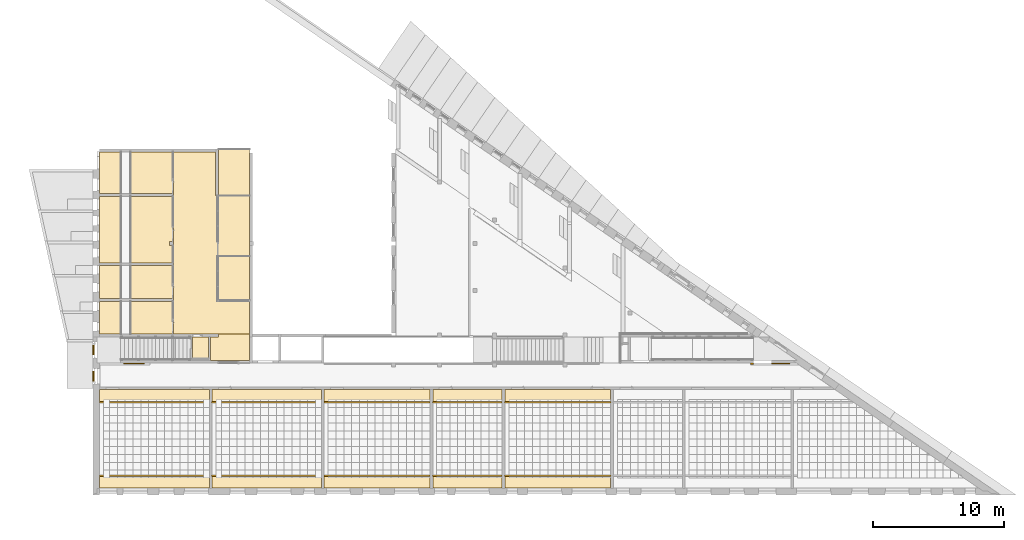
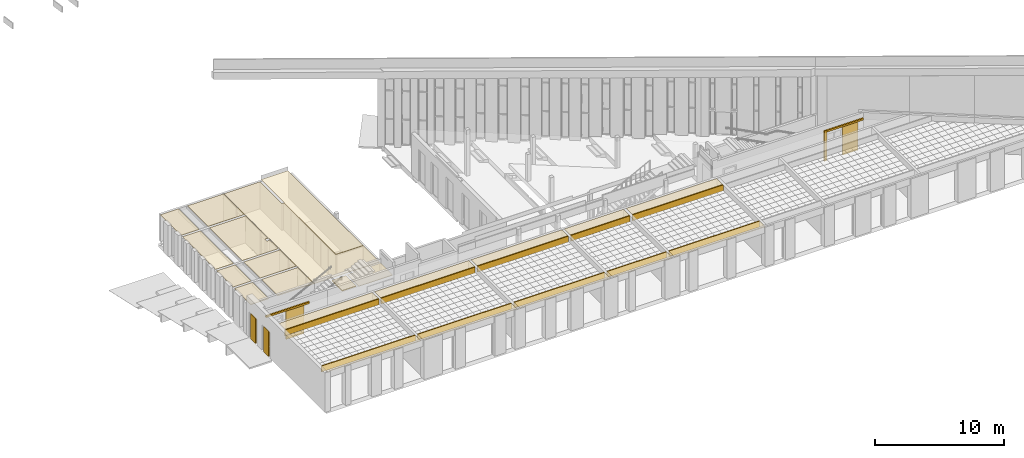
# One storey, part 51 of 79: 34 coverings, 2 doors.
"""IFC2X3 building model written with IfcOpenShell, lengths in millimetres."""

from ifc_helpers import new_model, entity, si_unit, converted_unit, derived_unit, money_unit, direction, frame, origin_with_axes, place, context, subcontext, project, spatial, faceted_brep, source, transform, mapped, material, material_list, type_object, element, save


model = new_model("IFC2X3")

# Units and contexts
model_context = context("Model", 3, precision=0.01, world=origin_with_axes(), true_north=direction((0.0, 1.0)))
body_context = subcontext(model_context, "Body", "Model", "MODEL_VIEW")
ifc_project = project(units=[si_unit("LENGTHUNIT", "METRE", prefix="MILLI"), si_unit("AREAUNIT", "SQUARE_METRE"), si_unit("VOLUMEUNIT", "CUBIC_METRE"), converted_unit("PLANEANGLEUNIT", "DEGREE", entity("IfcPlaneAngleMeasure", 0.0174532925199), si_unit("PLANEANGLEUNIT", "RADIAN"), dimensions=[0, 0, 0, 0, 0, 0, 0]), si_unit("SOLIDANGLEUNIT", "STERADIAN"), money_unit("EUR"), converted_unit("TIMEUNIT", "Year", entity("IfcTimeMeasure", 31556926.0), si_unit("TIMEUNIT", "SECOND"), dimensions=[0, 0, 1, 0, 0, 0, 0]), si_unit("MASSUNIT", "GRAM", prefix="KILO"), si_unit("THERMODYNAMICTEMPERATUREUNIT", "DEGREE_CELSIUS"), si_unit("LUMINOUSINTENSITYUNIT", "LUMEN"), si_unit("ENERGYUNIT", "JOULE", prefix="MEGA"), derived_unit("THERMALCONDUCTANCEUNIT", [(si_unit("POWERUNIT", "WATT"), 1), (si_unit("LENGTHUNIT", "METRE"), -1), (si_unit("THERMODYNAMICTEMPERATUREUNIT", "KELVIN"), -1)]), derived_unit("SPECIFICHEATCAPACITYUNIT", [(si_unit("ENERGYUNIT", "JOULE"), 1), (si_unit("MASSUNIT", "GRAM", prefix="KILO"), -1), (si_unit("THERMODYNAMICTEMPERATUREUNIT", "KELVIN"), -1)]), derived_unit("MASSDENSITYUNIT", [(si_unit("MASSUNIT", "GRAM", prefix="KILO"), 1), (si_unit("VOLUMEUNIT", "CUBIC_METRE"), -1)])], contexts=[model_context])

# Site, building, storey
site_placement = place(None, origin_with_axes())
site = spatial("IfcSite", under=ifc_project, at=site_placement, Name="L.Koidula tn 11b", CompositionType="ELEMENT")
building_placement = place(site_placement, origin_with_axes())
building = spatial("IfcBuilding", under=site, at=building_placement, Name="Rakvere Riigigümnaasium", CompositionType="ELEMENT")
storey_placement = place(building_placement, frame((0.0, 0.0, 3720.0), z_axis=(0.0, 0.0, 1.0), x_axis=(1.0, 0.0, 0.0)))
storey = spatial("IfcBuildingStorey", under=building, at=storey_placement, Name="2.korrus +3,72", CompositionType="ELEMENT", Elevation=3720.0)

# Doors
ifc_material_1 = material(Name="Alumiiniumprofiil")
door_style_1 = type_object("IfcDoorStyle", Name="Liuguks 1400mm", ConstructionType="NOTDEFINED", OperationType="NOTDEFINED", ParameterTakesPrecedence=False, Sizeable=False)
shared_shape = source(origin_with_axes(), body_context, "Body", "Brep", [
    faceted_brep([(0.0, 136.0, 0.0), (0.0, 136.0, 2870.0), (220.0000183, 136.0, 2870.0), (220.0000183, 136.0, 0.0), (0.0, 30.0, 0.0), (0.0, 30.0, 2870.0), (220.0000183, 30.0, 2870.0), (220.0000183, 30.0, 0.0)], [[[0, 1, 2, 3]], [[0, 4, 5, 1]], [[1, 5, 6, 2]], [[7, 3, 2, 6]], [[4, 0, 3, 7]], [[5, 4, 7, 6]]]),
    faceted_brep([(1620.0, 136.0, 0.0), (1620.0, 136.0, 2710.0), (3020.0, 136.0, 2710.0), (3020.0, 136.0, 0.0), (1620.0, 51.0, 0.0), (1620.0, 51.0, 2710.0), (3020.0, 51.0, 2710.0), (3020.0, 51.0, 0.0)], [[[0, 1, 2, 3]], [[1, 0, 4, 5]], [[1, 5, 6, 2]], [[3, 2, 6, 7]], [[4, 0, 3, 7]], [[5, 4, 7, 6]]]),
    faceted_brep([(220.0, 136.0, 2710.0), (220.0, 136.0, 2870.0000209), (3470.0, 136.0, 2870.0000209), (3470.0, 136.0, 2710.0), (220.0, 0.0, 2710.0), (220.0, 0.0, 2870.0000209), (3470.0, 0.0, 2870.0000209), (3470.0, 0.0, 2710.0)], [[[0, 1, 2, 3]], [[1, 0, 4, 5]], [[1, 5, 6, 2]], [[3, 2, 6, 7]], [[4, 0, 3, 7]], [[5, 4, 7, 6]]]),
])
door_1_placement = place(storey_placement, frame((85370.0187423, 14964.4785302, 0.0), z_axis=(0.0, 0.0, 1.0), x_axis=(1.0, 0.0, 0.0)))
element("IfcDoor", 1, at=door_1_placement, inside=storey, type_object=door_style_1, material=ifc_material_1, Name="SU-060", ObjectType="DOOR", context=body_context, shape_type="MappedRepresentation", body=[
    mapped(shared_shape, transform((0.0, 0.0, 0.0))),
])
ifc_material_2 = material(Name="VKR-01_Betoon")
door_style_2 = type_object("IfcDoorStyle", Name="Liuguks 1600mm-2", ConstructionType="NOTDEFINED", OperationType="NOTDEFINED", ParameterTakesPrecedence=False, Sizeable=False)
door_2_placement = place(storey_placement, frame((35500.0000521, 14964.4785302, 0.0), z_axis=(0.0, 0.0, 1.0), x_axis=(1.0, 0.0, 0.0)))
element("IfcDoor", 2, at=door_2_placement, inside=storey, type_object=door_style_2, material=ifc_material_2, Name="SU-058", ObjectType="DOOR", context=body_context, shape_type="Brep", body=[
    faceted_brep([(0.0, 0.0, 2870.0000209), (0.0, 0.0, 2710.0), (3870.0, 0.0, 2710.0), (3870.0, 0.0, 2870.0000209), (0.0, 136.0, 2710.0), (0.0, 136.0, 2870.0000209), (3870.0, 136.0, 2710.0), (3870.0, 136.0, 2870.0000209)], [[[0, 1, 2, 3]], [[4, 1, 0, 5]], [[1, 4, 6, 2]], [[7, 3, 2, 6]], [[5, 0, 3, 7]], [[4, 5, 7, 6]]]),
    faceted_brep([(1820.0000107, 136.0, 0.0), (1820.0000107, 51.0, 0.0), (1820.0000107, 51.0, 2710.0), (1820.0000107, 136.0, 2710.0), (3420.0000215, 136.0, 0.0), (3420.0000215, 51.0, 0.0), (3420.0000215, 51.0, 2710.0), (3420.0000215, 136.0, 2710.0)], [[[0, 1, 2, 3]], [[1, 0, 4, 5]], [[2, 1, 5, 6]], [[2, 6, 7, 3]], [[0, 3, 7, 4]], [[7, 6, 5, 4]]]),
])

# Coverings
ifc_material_3 = material(Name="mineraalvill+karkass")
ifc_material_4 = material(Name="SKR-02_Kipsplaat")
ifc_material_list = material_list([ifc_material_3, ifc_material_4])
covering_type_1 = type_object("IfcCoveringType", Name="SA-LV-kips 79", PredefinedType="CEILING")
covering_1_placement = place(storey_placement, frame((66330.0149327, 12140.4555989, 2762.5), z_axis=(0.0, 0.0, 1.0), x_axis=(-1.0, 0.0, 0.0)))
element("IfcCovering", 3, at=covering_1_placement, inside=storey, type_object=covering_type_1, material=ifc_material_list, Name="L-04 vert", PredefinedType="CEILING", context=body_context, shape_type="Brep", body=[
    faceted_brep([(5299.99864643, 12.5, 557.500000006), (5299.99864643, 78.5, 557.500000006), (0.0, 78.5, 557.500000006), (0.0, 12.5, 557.500000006), (5299.99864643, 12.5, 0.0), (5299.99864643, 78.5, 0.0), (0.0, 78.5, 0.0), (0.0, 12.5, 0.0)], [[[0, 1, 2, 3]], [[0, 4, 5, 1]], [[1, 5, 6, 2]], [[3, 2, 6, 7]], [[4, 0, 3, 7]], [[5, 4, 7, 6]]]),
    faceted_brep([(5299.99864643, 0.0, 557.500000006), (5299.99864643, 12.5, 557.500000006), (0.0, 12.5, 557.500000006), (0.0, 0.0, 557.500000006), (5299.99864643, 0.0, 0.0), (5299.99864643, 12.5, 0.0), (0.0, 12.5, 0.0), (0.0, 0.0, 0.0)], [[[0, 1, 2, 3]], [[0, 4, 5, 1]], [[1, 5, 6, 2]], [[3, 2, 6, 7]], [[4, 0, 3, 7]], [[5, 4, 7, 6]]]),
])
covering_2_placement = place(storey_placement, frame((61030.0162863, 6435.45437174, 2762.5), z_axis=(0.0, 0.0, 1.0), x_axis=(1.0, 0.0, 0.0)))
element("IfcCovering", 4, at=covering_2_placement, inside=storey, type_object=covering_type_1, material=ifc_material_list, Name="L-04 vert", PredefinedType="CEILING", context=body_context, shape_type="Brep", body=[
    faceted_brep([(5299.99866322, 12.5, 557.500000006), (5299.99866322, 78.5, 557.500000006), (0.0, 78.5, 557.500000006), (0.0, 12.5, 557.500000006), (5299.99866322, 12.5, 0.0), (5299.99866322, 78.5, 0.0), (0.0, 78.5, 0.0), (0.0, 12.5, 0.0)], [[[0, 1, 2, 3]], [[0, 4, 5, 1]], [[1, 5, 6, 2]], [[3, 2, 6, 7]], [[4, 0, 3, 7]], [[5, 4, 7, 6]]]),
    faceted_brep([(5299.99866322, 0.0, 557.500000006), (5299.99866322, 12.5, 557.500000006), (0.0, 12.5, 557.500000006), (0.0, 0.0, 557.500000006), (5299.99866322, 0.0, 0.0), (5299.99866322, 12.5, 0.0), (0.0, 12.5, 0.0), (0.0, 0.0, 0.0)], [[[0, 1, 2, 3]], [[0, 4, 5, 1]], [[1, 5, 6, 2]], [[3, 2, 6, 7]], [[4, 0, 3, 7]], [[5, 4, 7, 6]]]),
])
covering_3_placement = place(storey_placement, frame((35500.0000521, 6435.45437174, 2762.5), z_axis=(0.0, 0.0, 1.0), x_axis=(1.0, 0.0, 0.0)))
element("IfcCovering", 5, at=covering_3_placement, inside=storey, type_object=covering_type_1, material=ifc_material_list, Name="L-04 vert", PredefinedType="CEILING", context=body_context, shape_type="Brep", body=[
    faceted_brep([(8399.99995034, 12.5, 557.500000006), (8399.99995034, 78.5, 557.500000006), (0.0, 78.5, 557.500000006), (0.0, 12.5, 557.500000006), (8399.99995034, 12.5, 0.0), (8399.99995034, 78.5, 0.0), (0.0, 78.5, 0.0), (0.0, 12.5, 0.0)], [[[0, 1, 2, 3]], [[0, 4, 5, 1]], [[1, 5, 6, 2]], [[3, 2, 6, 7]], [[4, 0, 3, 7]], [[5, 4, 7, 6]]]),
    faceted_brep([(8399.99995034, 0.0, 557.500000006), (8399.99995034, 12.5, 557.500000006), (0.0, 12.5, 557.500000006), (0.0, 0.0, 557.500000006), (8399.99995034, 0.0, 0.0), (8399.99995034, 12.5, 0.0), (0.0, 12.5, 0.0), (0.0, 0.0, 0.0)], [[[0, 1, 2, 3]], [[0, 4, 5, 1]], [[1, 5, 6, 2]], [[3, 2, 6, 7]], [[4, 0, 3, 7]], [[5, 4, 7, 6]]]),
])
covering_4_placement = place(storey_placement, frame((43900.0000025, 12140.454896, 2762.5), z_axis=(0.0, 0.0, 1.0), x_axis=(-1.0, 0.0, 0.0)))
element("IfcCovering", 6, at=covering_4_placement, inside=storey, type_object=covering_type_1, material=ifc_material_list, Name="L-04 vert", PredefinedType="CEILING", context=body_context, shape_type="Brep", body=[
    faceted_brep([(8399.99995035, 12.5, 557.500000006), (8399.99995035, 78.5, 557.500000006), (0.0, 78.5, 557.500000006), (0.0, 12.5, 557.500000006), (8399.99995035, 12.5, 0.0), (8399.99995035, 78.5, 0.0), (0.0, 78.5, 0.0), (0.0, 12.5, 0.0)], [[[0, 1, 2, 3]], [[0, 4, 5, 1]], [[1, 5, 6, 2]], [[3, 2, 6, 7]], [[4, 0, 3, 7]], [[5, 4, 7, 6]]]),
    faceted_brep([(8399.99995035, 0.0, 557.500000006), (8399.99995035, 12.5, 557.500000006), (0.0, 12.5, 557.500000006), (0.0, 0.0, 557.500000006), (8399.99995035, 0.0, 0.0), (8399.99995035, 12.5, 0.0), (0.0, 12.5, 0.0), (0.0, 0.0, 0.0)], [[[0, 1, 2, 3]], [[0, 4, 5, 1]], [[1, 5, 6, 2]], [[3, 2, 6, 7]], [[4, 0, 3, 7]], [[5, 4, 7, 6]]]),
])
for number, where, z_axis, x_axis, name in (
    (7, (44100.0000025, 6435.45437174, 2762.5), (0.0, 0.0, 1.0), (1.0, 0.0, 0.0), "L-04 vert"),
    (8, (52489.9766386, 12140.454896, 2762.5), (0.0, 0.0, 1.0), (-1.0, 0.0, 0.0), "L-04 vert"),
):
    element("IfcCovering", number, at=place(storey_placement, frame(where, z_axis=z_axis, x_axis=x_axis)), inside=storey, type_object=covering_type_1, material=ifc_material_list, Name=name, PredefinedType="CEILING", context=body_context, shape_type="Brep", body=[
        faceted_brep([(8389.97663607, 12.5, 557.500000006), (8389.97663607, 78.5, 557.500000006), (0.0, 78.5, 557.500000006), (0.0, 12.5, 557.500000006), (8389.97663607, 12.5, 0.0), (8389.97663607, 78.5, 0.0), (0.0, 78.5, 0.0), (0.0, 12.5, 0.0)], [[[0, 1, 2, 3]], [[0, 4, 5, 1]], [[1, 5, 6, 2]], [[3, 2, 6, 7]], [[4, 0, 3, 7]], [[5, 4, 7, 6]]]),
        faceted_brep([(8389.97663607, 0.0, 557.500000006), (8389.97663607, 12.5, 557.500000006), (0.0, 12.5, 557.500000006), (0.0, 0.0, 557.500000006), (8389.97663607, 0.0, 0.0), (8389.97663607, 12.5, 0.0), (0.0, 12.5, 0.0), (0.0, 0.0, 0.0)], [[[0, 1, 2, 3]], [[0, 4, 5, 1]], [[1, 5, 6, 2]], [[3, 2, 6, 7]], [[4, 0, 3, 7]], [[5, 4, 7, 6]]]),
    ])
for number, where, z_axis, x_axis, name in (
    (9, (52709.9765894, 6435.45437174, 2762.5), (0.0, 0.0, 1.0), (1.0, 0.0, 0.0), "L-04 vert"),
    (10, (60810.0163039, 12140.4549644, 2762.5), (0.0, 0.0, 1.0), (-1.0, 0.0, 0.0), "L-04 vert"),
):
    element("IfcCovering", number, at=place(storey_placement, frame(where, z_axis=z_axis, x_axis=x_axis)), inside=storey, type_object=covering_type_1, material=ifc_material_list, Name=name, PredefinedType="CEILING", context=body_context, shape_type="Brep", body=[
        faceted_brep([(8100.03971444, 12.5, 557.500000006), (8100.03971444, 78.5, 557.500000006), (0.0, 78.5, 557.500000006), (0.0, 12.5, 557.500000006), (8100.03971444, 12.5, 0.0), (8100.03971444, 78.5, 0.0), (0.0, 78.5, 0.0), (0.0, 12.5, 0.0)], [[[0, 1, 2, 3]], [[0, 4, 5, 1]], [[1, 5, 6, 2]], [[3, 2, 6, 7]], [[4, 0, 3, 7]], [[5, 4, 7, 6]]]),
        faceted_brep([(8100.03971444, 0.0, 557.500000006), (8100.03971444, 12.5, 557.500000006), (0.0, 12.5, 557.500000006), (0.0, 0.0, 557.500000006), (8100.03971444, 0.0, 0.0), (8100.03971444, 12.5, 0.0), (0.0, 12.5, 0.0), (0.0, 0.0, 0.0)], [[[0, 1, 2, 3]], [[0, 4, 5, 1]], [[1, 5, 6, 2]], [[3, 2, 6, 7]], [[4, 0, 3, 7]], [[5, 4, 7, 6]]]),
    ])
covering_5_placement = place(storey_placement, frame((66549.7149327, 6435.45437174, 2762.5), z_axis=(0.0, 0.0, 1.0), x_axis=(1.0, 0.0, 0.0)))
element("IfcCovering", 11, at=covering_5_placement, inside=storey, type_object=covering_type_1, material=ifc_material_list, Name="L-04 vert", PredefinedType="CEILING", context=body_context, shape_type="Brep", body=[
    faceted_brep([(8100.33964297, 12.5, 557.500000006), (8100.33964297, 78.5, 557.500000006), (0.0, 78.5, 557.500000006), (0.0, 12.5, 557.500000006), (8100.33964297, 12.5, 0.0), (8100.33964297, 78.5, 0.0), (0.0, 78.5, 0.0), (0.0, 12.5, 0.0)], [[[0, 1, 2, 3]], [[0, 4, 5, 1]], [[1, 5, 6, 2]], [[3, 2, 6, 7]], [[4, 0, 3, 7]], [[5, 4, 7, 6]]]),
    faceted_brep([(8100.33964297, 0.0, 557.500000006), (8100.33964297, 12.5, 557.500000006), (0.0, 12.5, 557.500000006), (0.0, 0.0, 557.500000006), (8100.33964297, 0.0, 0.0), (8100.33964297, 12.5, 0.0), (0.0, 12.5, 0.0), (0.0, 0.0, 0.0)], [[[0, 1, 2, 3]], [[0, 4, 5, 1]], [[1, 5, 6, 2]], [[3, 2, 6, 7]], [[4, 0, 3, 7]], [[5, 4, 7, 6]]]),
])
covering_6_placement = place(storey_placement, frame((74650.0545757, 12140.4549644, 2762.5), z_axis=(0.0, 0.0, 1.0), x_axis=(-1.0, 0.0, 0.0)))
element("IfcCovering", 12, at=covering_6_placement, inside=storey, type_object=covering_type_1, material=ifc_material_list, Name="L-04 vert", PredefinedType="CEILING", context=body_context, shape_type="Brep", body=[
    faceted_brep([(8100.03971444, 12.5, 557.500000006), (8100.03971444, 78.5, 557.500000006), (0.0, 78.5, 557.500000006), (0.0, 12.5, 557.500000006), (8100.03971444, 12.5, 0.0), (8100.03971444, 78.5, 0.0), (0.0, 78.5, 0.0), (0.0, 12.5, 0.0)], [[[0, 1, 2, 3]], [[0, 4, 5, 1]], [[1, 5, 6, 2]], [[3, 2, 6, 7]], [[4, 0, 3, 7]], [[5, 4, 7, 6]]]),
    faceted_brep([(8100.03971444, 0.0, 557.500000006), (8100.03971444, 12.5, 557.500000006), (0.0, 12.5, 557.500000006), (0.0, 0.0, 557.500000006), (8100.03971444, 0.0, 0.0), (8100.03971444, 12.5, 0.0), (0.0, 12.5, 0.0), (0.0, 0.0, 0.0)], [[[0, 1, 2, 3]], [[0, 4, 5, 1]], [[1, 5, 6, 2]], [[3, 2, 6, 7]], [[4, 0, 3, 7]], [[5, 4, 7, 6]]]),
])
covering_7_placement = place(storey_placement, frame((42600.0000029, 15500.4785302, 2400.0), z_axis=(0.0, 0.0, 1.0), x_axis=(1.0, 0.0, 0.0)))
element("IfcCovering", 13, at=covering_7_placement, inside=storey, type_object=covering_type_1, material=ifc_material_list, Name="L-04", PredefinedType="CEILING", context=body_context, shape_type="Brep", body=[
    faceted_brep([(1249.99983436, 0.0, 12.5), (1249.99983436, 0.0, 78.5), (0.0, 0.0, 78.5), (0.0, 0.0, 12.5), (1249.99983436, 1599.97697926, 12.5), (1249.99983436, 1599.97697926, 78.5), (0.0, 1599.97697926, 78.5), (0.0, 1599.97697926, 12.5)], [[[0, 1, 2, 3]], [[4, 5, 1, 0]], [[2, 1, 5, 6]], [[3, 2, 6, 7]], [[3, 7, 4, 0]], [[7, 6, 5, 4]]]),
    faceted_brep([(0.0, 0.0, 0.0), (1249.99983436, 0.0, 0.0), (1249.99983436, 0.0, 12.5), (0.0, 0.0, 12.5), (0.0, 1599.97697926, 0.0), (1249.99983436, 1599.97697926, 0.0), (1249.99983436, 1599.97697926, 12.5), (0.0, 1599.97697926, 12.5)], [[[0, 1, 2, 3]], [[0, 4, 5, 1]], [[1, 5, 6, 2]], [[3, 2, 6, 7]], [[4, 0, 3, 7]], [[5, 4, 7, 6]]]),
])
ifc_material_5 = material(Name="Krohv akustiline")
covering_type_2 = type_object("IfcCoveringType", Name="Krohv akustiline 42", PredefinedType="CEILING")
covering_8_placement = place(storey_placement, frame((43989.9997363, 15310.4762571, 2535.0), z_axis=(0.0, 0.0, 1.0), x_axis=(1.0, 0.0, 0.0)))
element("IfcCovering", 14, at=covering_8_placement, inside=storey, type_object=covering_type_2, material=ifc_material_5, Name="L-06", PredefinedType="CEILING", context=body_context, shape_type="Brep", body=[
    faceted_brep([(0.0, 0.0, 0.0), (0.0, 0.0, -42.0), (3000.00015653, -0.000804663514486, -42.0), (3000.00015653, -0.000804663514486, 0.0), (0.0, 1789.97926155, 0.0), (0.0, 1789.97926155, -42.0), (619.972375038, 1789.97926155, -42.0), (619.972375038, 2009.97925238, -42.0), (3000.00015653, 2009.97925238, -42.0), (3000.00015653, 2009.97925238, 0.0), (619.972375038, 2009.97925238, 0.0), (619.972375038, 1789.97926155, 0.0)], [[[0, 1, 2, 3]], [[4, 5, 1, 0]], [[2, 1, 5, 6, 7, 8]], [[3, 2, 8, 9]], [[4, 0, 3, 9, 10, 11]], [[11, 6, 5, 4]], [[10, 7, 6, 11]], [[9, 8, 7, 10]]]),
])
covering_9_placement = place(storey_placement, frame((44584.9999911, 19885.2190307, 2550.0), z_axis=(0.0, 0.0, 1.0), x_axis=(1.0, 0.0, 0.0)))
element("IfcCovering", 15, at=covering_9_placement, inside=storey, type_object=covering_type_2, material=ifc_material_5, Name="L-06", PredefinedType="CEILING", context=body_context, shape_type="Brep", body=[
    faceted_brep([(0.0, 0.0, 0.0), (0.0, 0.0, -42.0), (2405.00000237, 0.0, -42.0), (2405.00000237, 0.0, 0.0), (0.0, 8035.23668981, 0.0), (0.0, 8035.23668981, -42.0), (25.0, 8035.23668981, -42.0), (25.0, 11625.2364804, -42.0), (2405.00000237, 11625.2364804, -42.0), (2405.00000237, 11625.2364804, 0.0), (25.0, 11625.2364804, 0.0), (25.0, 8035.23668981, 0.0)], [[[0, 1, 2, 3]], [[4, 5, 1, 0]], [[2, 1, 5, 6, 7, 8]], [[3, 2, 8, 9]], [[4, 0, 3, 9, 10, 11]], [[11, 6, 5, 4]], [[10, 7, 6, 11]], [[9, 8, 7, 10]]]),
])
covering_10_placement = place(storey_placement, frame((41160.0009821, 31290.4555111, 2550.0), z_axis=(0.0, 0.0, 1.0), x_axis=(1.0, 0.0, 0.0)))
element("IfcCovering", 16, at=covering_10_placement, inside=storey, type_object=covering_type_2, material=ifc_material_5, Name="L-06", PredefinedType="CEILING", context=body_context, shape_type="Brep", body=[
    faceted_brep([(0.0, 0.0, 0.0), (0.0, 0.0, -42.0), (0.0, -13970.0000016, -42.0), (0.0, -13970.0000016, 0.0), (3229.999071, 0.0, 0.0), (3229.999071, 0.0, -42.0), (3229.999071, -3369.99979057, -42.0), (3404.99900896, -3369.99979057, -42.0), (3404.99900896, -11425.2364804, -42.0), (5829.99891066, -11425.2364804, -42.0), (5829.99891066, -13970.0000016, -42.0), (5829.99891066, -13970.0000016, 0.0), (5829.99891066, -11425.2364804, 0.0), (3404.99900896, -11425.2364804, 0.0), (3404.99900896, -3369.99979057, 0.0), (3229.999071, -3369.99979057, 0.0)], [[[0, 1, 2, 3]], [[4, 5, 1, 0]], [[2, 1, 5, 6, 7, 8, 9, 10]], [[3, 2, 10, 11]], [[4, 0, 3, 11, 12, 13, 14, 15]], [[15, 6, 5, 4]], [[14, 7, 6, 15]], [[13, 8, 7, 14]], [[12, 9, 8, 13]], [[11, 10, 9, 12]]]),
])
covering_11_placement = place(storey_placement, frame((41124.9999853, 17320.4555095, 2550.0), z_axis=(0.0, 0.0, 1.0), x_axis=(1.0, 0.0, 0.0)))
element("IfcCovering", 17, at=covering_11_placement, inside=storey, type_object=covering_type_2, material=ifc_material_5, Name="L-06", PredefinedType="CEILING", context=body_context, shape_type="Brep", body=[
    faceted_brep([(0.0, 0.0, 0.0), (0.0, 0.0, -42.0), (0.0, 2510.00001286, -42.0), (0.0, 2510.00001286, 0.0), (-3224.99993316, 0.0, 0.0), (-3224.99993316, 0.0, -42.0), (-3224.99993316, 2510.00001286, -42.0), (-3224.99993316, 2510.00001286, 0.0)], [[[0, 1, 2, 3]], [[4, 5, 1, 0]], [[2, 1, 5, 6]], [[3, 2, 6, 7]], [[4, 0, 3, 7]], [[7, 6, 5, 4]]]),
])
covering_12_placement = place(storey_placement, frame((37100.0000521, 20050.4555224, 2550.0), z_axis=(0.0, 0.0, 1.0), x_axis=(1.0, 0.0, 0.0)))
element("IfcCovering", 18, at=covering_12_placement, inside=storey, type_object=covering_type_2, material=ifc_material_5, Name="L-06", PredefinedType="CEILING", context=body_context, shape_type="Brep", body=[
    faceted_brep([(0.0, 0.0, 0.0), (0.0, 0.0, -42.0), (0.0, 2509.99999709, -42.0), (0.0, 2509.99999709, 0.0), (-1600.0, 0.0, 0.0), (-1600.0, 0.0, -42.0), (-1600.0, 2509.99999709, -42.0), (-1600.0, 2509.99999709, 0.0)], [[[0, 1, 2, 3]], [[4, 5, 1, 0]], [[2, 1, 5, 6]], [[3, 2, 6, 7]], [[4, 0, 3, 7]], [[7, 6, 5, 4]]]),
])
covering_13_placement = place(storey_placement, frame((37100.0000521, 22780.4555253, 2550.0), z_axis=(0.0, 0.0, 1.0), x_axis=(1.0, 0.0, 0.0)))
element("IfcCovering", 19, at=covering_13_placement, inside=storey, type_object=covering_type_2, material=ifc_material_5, Name="L-06", PredefinedType="CEILING", context=body_context, shape_type="Brep", body=[
    faceted_brep([(0.0, 0.0, 0.0), (0.0, 0.0, -42.0), (0.0, 5089.50370086, -42.0), (0.0, 5089.50370086, 0.0), (-1600.0, 0.0, 0.0), (-1600.0, 0.0, -42.0), (-1600.0, 5089.50370086, -42.0), (-1600.0, 5089.50370086, 0.0)], [[[0, 1, 2, 3]], [[4, 5, 1, 0]], [[2, 1, 5, 6]], [[3, 2, 6, 7]], [[4, 0, 3, 7]], [[7, 6, 5, 4]]]),
])
covering_14_placement = place(storey_placement, frame((35500.0000745, 28089.9592261, 2550.0), z_axis=(0.0, 0.0, 1.0), x_axis=(1.0, 0.0, 0.0)))
element("IfcCovering", 20, at=covering_14_placement, inside=storey, type_object=covering_type_2, material=ifc_material_5, Name="L-06", PredefinedType="CEILING", context=body_context, shape_type="Brep", body=[
    faceted_brep([(0.0, 0.0, 0.0), (0.0, 0.0, -42.0), (1599.99997761, 0.0, -42.0), (1599.99997761, 0.0, 0.0), (0.0, 3200.49628428, 0.0), (0.0, 3200.49628428, -42.0), (1599.99997761, 3200.49628428, -42.0), (1599.99997761, 3200.49628428, 0.0)], [[[0, 1, 2, 3]], [[4, 5, 1, 0]], [[2, 1, 5, 6]], [[3, 2, 6, 7]], [[4, 0, 3, 7]], [[7, 6, 5, 4]]]),
])
covering_15_placement = place(storey_placement, frame((37900.0000521, 28089.9592261, 2550.0), z_axis=(0.0, 0.0, 1.0), x_axis=(1.0, 0.0, 0.0)))
element("IfcCovering", 21, at=covering_15_placement, inside=storey, type_object=covering_type_2, material=ifc_material_5, Name="L-06", PredefinedType="CEILING", context=body_context, shape_type="Brep", body=[
    faceted_brep([(0.0, 0.0, 0.0), (0.0, 0.0, -42.0), (3224.99993316, 0.0, -42.0), (3224.99993316, 0.0, 0.0), (0.0, 3200.49628428, 0.0), (0.0, 3200.49628428, -42.0), (3224.99993316, 3200.49628428, -42.0), (3224.99993316, 3200.49628428, 0.0)], [[[0, 1, 2, 3]], [[4, 5, 1, 0]], [[2, 1, 5, 6]], [[3, 2, 6, 7]], [[4, 0, 3, 7]], [[7, 6, 5, 4]]]),
])
covering_16_placement = place(storey_placement, frame((41124.9999853, 22780.4555253, 2550.0), z_axis=(0.0, 0.0, 1.0), x_axis=(1.0, 0.0, 0.0)))
element("IfcCovering", 22, at=covering_16_placement, inside=storey, type_object=covering_type_2, material=ifc_material_5, Name="L-06", PredefinedType="CEILING", context=body_context, shape_type="Brep", body=[
    faceted_brep([(0.0, 0.0, 0.0), (0.0, 0.0, -42.0), (0.0, 1319.99999164, -42.0), (0.0, 1319.99999164, 0.0), (-3224.99993316, 0.0, 0.0), (-3224.99993316, 0.0, -42.0), (-3224.99993316, 5089.50370086, -42.0), (0.0, 5089.50370086, -42.0), (0.0, 1620.00003987, -42.0), (-274.999004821, 1620.00003987, -42.0), (-274.999004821, 1319.99999164, -42.0), (-274.999004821, 1319.99999164, 0.0), (-274.999004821, 1620.00003987, 0.0), (0.0, 1620.00003987, 0.0), (0.0, 5089.50370086, 0.0), (-3224.99993316, 5089.50370086, 0.0)], [[[0, 1, 2, 3]], [[4, 5, 1, 0]], [[2, 1, 5, 6, 7, 8, 9, 10]], [[3, 2, 10, 11]], [[4, 0, 3, 11, 12, 13, 14, 15]], [[15, 6, 5, 4]], [[14, 7, 6, 15]], [[13, 8, 7, 14]], [[12, 9, 8, 13]], [[11, 10, 9, 12]]]),
])
covering_17_placement = place(storey_placement, frame((41124.9999853, 20050.4555224, 2550.0), z_axis=(0.0, 0.0, 1.0), x_axis=(1.0, 0.0, 0.0)))
element("IfcCovering", 23, at=covering_17_placement, inside=storey, type_object=covering_type_2, material=ifc_material_5, Name="L-06", PredefinedType="CEILING", context=body_context, shape_type="Brep", body=[
    faceted_brep([(0.0, 0.0, 0.0), (0.0, 0.0, -42.0), (0.0, 2509.99999709, -42.0), (0.0, 2509.99999709, 0.0), (-3224.99993316, 0.0, 0.0), (-3224.99993316, 0.0, -42.0), (-3224.99993316, 2509.99999709, -42.0), (-3224.99993316, 2509.99999709, 0.0)], [[[0, 1, 2, 3]], [[4, 5, 1, 0]], [[2, 1, 5, 6]], [[3, 2, 6, 7]], [[4, 0, 3, 7]], [[7, 6, 5, 4]]]),
])
covering_18_placement = place(storey_placement, frame((37100.0000521, 17320.4555095, 2550.0), z_axis=(0.0, 0.0, 1.0), x_axis=(1.0, 0.0, 0.0)))
element("IfcCovering", 24, at=covering_18_placement, inside=storey, type_object=covering_type_2, material=ifc_material_5, Name="L-06", PredefinedType="CEILING", context=body_context, shape_type="Brep", body=[
    faceted_brep([(0.0, 0.0, 0.0), (0.0, 0.0, -42.0), (0.0, 2510.00001286, -42.0), (0.0, 2510.00001286, 0.0), (-1600.0, 0.0, 0.0), (-1600.0, 0.0, -42.0), (-1600.0, 2510.00001286, -42.0), (-1600.0, 2510.00001286, 0.0)], [[[0, 1, 2, 3]], [[4, 5, 1, 0]], [[2, 1, 5, 6]], [[3, 2, 6, 7]], [[4, 0, 3, 7]], [[7, 6, 5, 4]]]),
])
ifc_material_6 = material(Name="Salto-siseviimistlus-ripplagi")
covering_type_3 = type_object("IfcCoveringType", Name="Salto-siseviimistlus-ripplagi 1", PredefinedType="CLADDING")
covering_19_placement = place(storey_placement, frame((44100.0000025, 13070.4543663, 3320.00000001), z_axis=(0.0, 0.0, 1.0), x_axis=(1.0, 0.0, 0.0)))
element("IfcCovering", 25, at=covering_19_placement, inside=storey, type_object=covering_type_3, material=ifc_material_6, Name="L-09", PredefinedType="CLADDING", context=body_context, shape_type="Brep", body=[
    faceted_brep([(0.0, 0.0, 0.0), (0.0, 0.0, -1.0), (0.0, -929.999470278, -1.0), (0.0, -929.999470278, 0.0), (8389.97663607, 0.0, 0.0), (8389.97663607, 0.0, -1.0), (8389.97663607, -929.999470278, -1.0), (8389.97663607, -929.999470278, 0.0)], [[[0, 1, 2, 3]], [[4, 5, 1, 0]], [[2, 1, 5, 6]], [[3, 2, 6, 7]], [[4, 0, 3, 7]], [[7, 6, 5, 4]]]),
])
covering_20_placement = place(storey_placement, frame((44100.0000025, 6435.45431363, 3320.00000001), z_axis=(0.0, 0.0, 1.0), x_axis=(1.0, 0.0, 0.0)))
element("IfcCovering", 26, at=covering_20_placement, inside=storey, type_object=covering_type_3, material=ifc_material_6, Name="L-09", PredefinedType="CLADDING", context=body_context, shape_type="Brep", body=[
    faceted_brep([(0.0, 0.0, 0.0), (0.0, 0.0, -1.0), (0.0, -924.998774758, -1.0), (0.0, -924.998774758, 0.0), (8389.97663607, 0.0, 0.0), (8389.97663607, 0.0, -1.0), (8389.97663607, -924.998774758, -1.0), (8389.97663607, -924.998774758, 0.0)], [[[0, 1, 2, 3]], [[4, 5, 1, 0]], [[2, 1, 5, 6]], [[3, 2, 6, 7]], [[4, 0, 3, 7]], [[7, 6, 5, 4]]]),
])
covering_21_placement = place(storey_placement, frame((60810.0163039, 13070.4544011, 3320.00000001), z_axis=(0.0, 0.0, 1.0), x_axis=(1.0, 0.0, 0.0)))
element("IfcCovering", 27, at=covering_21_placement, inside=storey, type_object=covering_type_3, material=ifc_material_6, Name="L-09", PredefinedType="CLADDING", context=body_context, shape_type="Brep", body=[
    faceted_brep([(0.0, 0.0, 0.0), (0.0, 0.0, -1.0), (-8100.03971444, 0.0, -1.0), (-8100.03971444, 0.0, 0.0), (0.0, -929.999436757, 0.0), (0.0, -929.999436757, -1.0), (-8100.03971444, -929.999436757, -1.0), (-8100.03971444, -929.999436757, 0.0)], [[[0, 1, 2, 3]], [[4, 5, 1, 0]], [[2, 1, 5, 6]], [[3, 2, 6, 7]], [[0, 3, 7, 4]], [[7, 6, 5, 4]]]),
])
covering_22_placement = place(storey_placement, frame((52989.6766501, 6435.45436996, 3320.00000001), z_axis=(0.0, 0.0, 1.0), x_axis=(1.0, 0.0, 0.0)))
element("IfcCovering", 28, at=covering_22_placement, inside=storey, type_object=covering_type_3, material=ifc_material_6, Name="L-09", PredefinedType="CLADDING", context=body_context, shape_type="Brep", body=[
    faceted_brep([(-279.70006066, 0.0, 0.0), (-279.70006066, 0.0, -1.0), (-279.70006066, -924.998831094, -1.0), (-279.70006066, -924.998831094, 0.0), (7820.33965378, 0.0, 0.0), (7820.33965378, 0.0, -1.0), (7820.33965378, -924.998831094, -1.0), (7820.33965378, -924.998831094, 0.0)], [[[0, 1, 2, 3]], [[4, 5, 1, 0]], [[1, 5, 6, 2]], [[3, 2, 6, 7]], [[4, 0, 3, 7]], [[7, 6, 5, 4]]]),
])
covering_23_placement = place(storey_placement, frame((61030.0162863, 6435.4543653, 3320.00000001), z_axis=(0.0, 0.0, 1.0), x_axis=(1.0, 0.0, 0.0)))
element("IfcCovering", 29, at=covering_23_placement, inside=storey, type_object=covering_type_3, material=ifc_material_6, Name="L-09", PredefinedType="CLADDING", context=body_context, shape_type="Brep", body=[
    faceted_brep([(0.0, 0.0, 0.0), (0.0, 0.0, -1.0), (0.0, -924.998826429, -1.0), (0.0, -924.998826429, 0.0), (5299.99866322, 0.0, 0.0), (5299.99866322, 0.0, -1.0), (5299.99866322, -924.998826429, -1.0), (5299.99866322, -924.998826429, 0.0)], [[[0, 1, 2, 3]], [[4, 5, 1, 0]], [[2, 1, 5, 6]], [[3, 2, 6, 7]], [[0, 3, 7, 4]], [[7, 6, 5, 4]]]),
])
covering_24_placement = place(storey_placement, frame((66330.0149495, 13070.4544092, 3320.00000001), z_axis=(0.0, 0.0, 1.0), x_axis=(1.0, 0.0, 0.0)))
element("IfcCovering", 30, at=covering_24_placement, inside=storey, type_object=covering_type_3, material=ifc_material_6, Name="L-09", PredefinedType="CLADDING", context=body_context, shape_type="Brep", body=[
    faceted_brep([(0.0, 0.0, 0.0), (0.0, 0.0, -1.0), (-5299.99866322, 0.0, -1.0), (-5299.99866322, 0.0, 0.0), (0.0, -929.998810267, 0.0), (0.0, -929.998810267, -1.0), (-5299.99866322, -929.998810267, -1.0), (-5299.99866322, -929.998810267, 0.0)], [[[0, 1, 2, 3]], [[4, 5, 1, 0]], [[2, 1, 5, 6]], [[3, 2, 6, 7]], [[0, 3, 7, 4]], [[7, 6, 5, 4]]]),
])
covering_25_placement = place(storey_placement, frame((43900.0000025, 13070.4543509, 3320.00000001), z_axis=(0.0, 0.0, 1.0), x_axis=(1.0, 0.0, 0.0)))
element("IfcCovering", 31, at=covering_25_placement, inside=storey, type_object=covering_type_3, material=ifc_material_6, Name="L-09", PredefinedType="CLADDING", context=body_context, shape_type="Brep", body=[
    faceted_brep([(0.0, 0.0, 0.0), (0.0, 0.0, -1.0), (-8399.99995035, 0.0, -1.0), (-8399.99995035, 0.0, 0.0), (0.0, -929.956336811, 0.0), (0.0, -929.956336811, -1.0), (-8399.99995035, -929.999454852, -1.0), (-8399.99995035, -929.999454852, 0.0)], [[[0, 1, 2, 3]], [[4, 5, 1, 0]], [[2, 1, 5, 6]], [[3, 2, 6, 7]], [[4, 0, 3, 7]], [[7, 6, 5, 4]]]),
])
covering_26_placement = place(storey_placement, frame((35500.0000521, 6435.45438899, 3320.00000001), z_axis=(0.0, 0.0, 1.0), x_axis=(1.0, 0.0, 0.0)))
element("IfcCovering", 32, at=covering_26_placement, inside=storey, type_object=covering_type_3, material=ifc_material_6, Name="L-09", PredefinedType="CLADDING", context=body_context, shape_type="Brep", body=[
    faceted_brep([(0.0, 0.0, 0.0), (0.0, 0.0, -1.0), (0.0, -924.998850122, -1.0), (0.0, -924.998850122, 0.0), (8399.99995034, 0.0, 0.0), (8399.99995034, 0.0, -1.0), (8399.99995034, -924.998850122, -1.0), (8399.99995034, -924.998850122, 0.0)], [[[0, 1, 2, 3]], [[4, 5, 1, 0]], [[2, 1, 5, 6]], [[3, 2, 6, 7]], [[4, 0, 3, 7]], [[7, 6, 5, 4]]]),
])
covering_27_placement = place(storey_placement, frame((66550.0148612, 13070.4544011, 3320.00000001), z_axis=(0.0, 0.0, 1.0), x_axis=(1.0, 0.0, 0.0)))
element("IfcCovering", 33, at=covering_27_placement, inside=storey, type_object=covering_type_3, material=ifc_material_6, Name="L-09", PredefinedType="CLADDING", context=body_context, shape_type="Brep", body=[
    faceted_brep([(0.0, 0.0, 0.0), (0.0, 0.0, -1.0), (0.0, -929.999436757, -1.0), (0.0, -929.999436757, 0.0), (8100.03971444, 0.0, 0.0), (8100.03971444, 0.0, -1.0), (8100.03971444, -929.999436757, -1.0), (8100.03971444, -929.999436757, 0.0)], [[[0, 1, 2, 3]], [[4, 5, 1, 0]], [[2, 1, 5, 6]], [[3, 2, 6, 7]], [[4, 0, 3, 7]], [[7, 6, 5, 4]]]),
])
covering_28_placement = place(storey_placement, frame((66849.7149305, 6435.45436996, 3320.00000001), z_axis=(0.0, 0.0, 1.0), x_axis=(1.0, 0.0, 0.0)))
element("IfcCovering", 34, at=covering_28_placement, inside=storey, type_object=covering_type_3, material=ifc_material_6, Name="L-09", PredefinedType="CLADDING", context=body_context, shape_type="Brep", body=[
    faceted_brep([(-299.700069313, 0.0, 0.0), (-299.700069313, 0.0, -1.0), (-299.700069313, -924.998831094, -1.0), (-299.700069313, -924.998831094, 0.0), (7800.33964513, 0.0, 0.0), (7800.33964513, 0.0, -1.0), (7800.33964513, -924.998831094, -1.0), (7800.33964513, -924.998831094, 0.0)], [[[0, 1, 2, 3]], [[4, 5, 1, 0]], [[1, 5, 6, 2]], [[3, 2, 6, 7]], [[4, 0, 3, 7]], [[7, 6, 5, 4]]]),
])
ifc_material_7 = material(Name="Puit-fassaad")
covering_type_4 = type_object("IfcCoveringType", Name="Puit-fassaad 84", PredefinedType="CLADDING")
for number, where, z_axis, x_axis in (
    (35, (35070.0000521, 14475.6861289, 0.0), (0.0, 0.0, 1.0), (0.0, -1.0, 0.0)),
    (36, (35070.0000521, 16475.4785302, 0.0), (0.0, 0.0, 1.0), (0.0, -1.0, 0.0)),
):
    element("IfcCovering", number, at=place(storey_placement, frame(where, z_axis=z_axis, x_axis=x_axis)), inside=storey, type_object=covering_type_4, material=ifc_material_7, Name="Välisuksele kinnitatud laudis", PredefinedType="CLADDING", context=body_context, shape_type="Brep", body=[
        faceted_brep([(0.0, 0.0, 0.0), (750.0, 0.0, 0.0), (750.0, -84.0, 0.0), (0.0, -84.0, 0.0), (0.0, 0.0, 2372.0), (750.0, 0.0, 2372.0), (750.0, -84.0, 2372.0), (0.0, -84.0, 2372.0)], [[[0, 1, 2, 3]], [[4, 5, 1, 0]], [[2, 1, 5, 6]], [[3, 2, 6, 7]], [[4, 0, 3, 7]], [[7, 6, 5, 4]]]),
    ])

save(model, "model.ifc")
